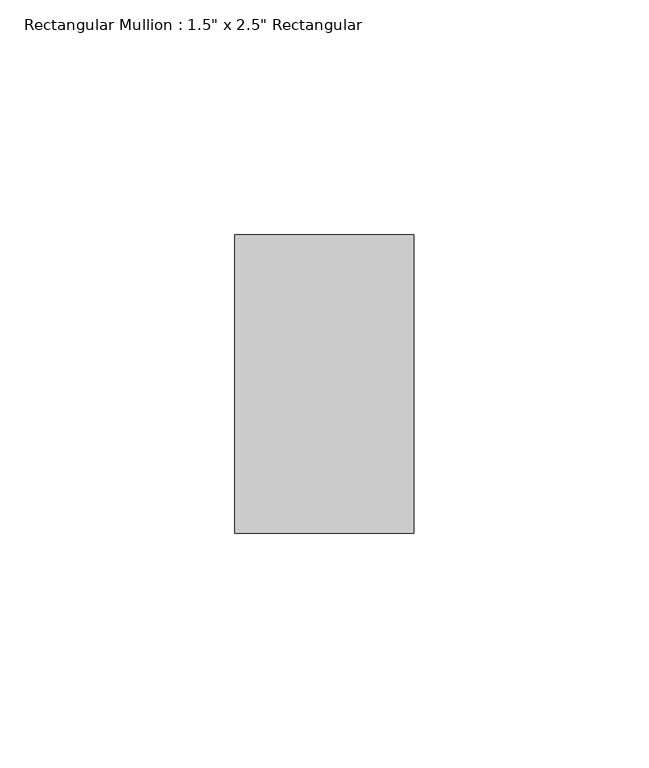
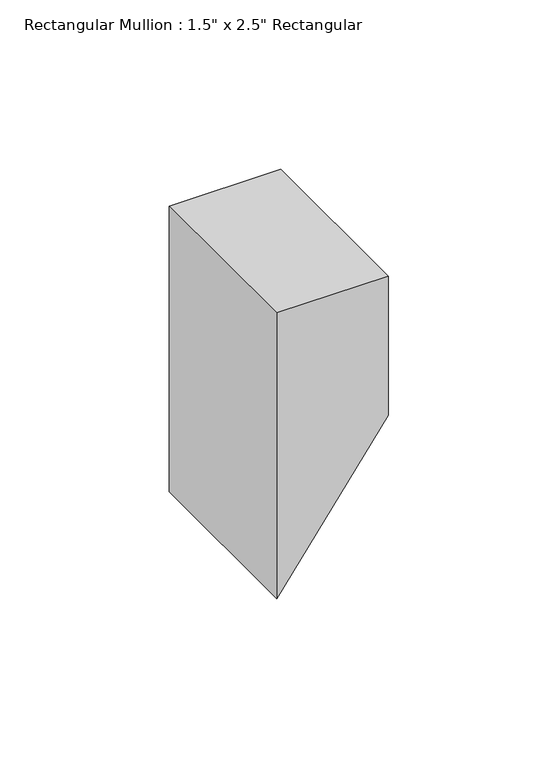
"""IFC4 building model written with IfcOpenShell, lengths in millimetres: member geometry."""

from ifc_helpers import new_model, si_unit, frame, origin, place, context, project, spatial, polyline, outline, extrude, source, transform, mapped, element, save


def member_0bac5ac1(model_context):
    return source(origin(), model_context, "Body", "SweptSolid", [
        extrude(outline(polyline([(0.0, 0.0), (0.0, -38.1), (-103.0620845, -38.1), (-50.2011582, 0.0), (0.0, 0.0)])), frame((0.0, -31.75, 0.0), z_axis=(0.0, 1.0, 0.0), x_axis=(0.0, 0.0, 1.0)), (0.0, 0.0, 1.0), 63.5),
    ])


if __name__ == "__main__":
    model = new_model("IFC4")
    model_context = context("Model", 3, world=origin())
    ifc_project = project(units=[si_unit("LENGTHUNIT", "METRE", prefix="MILLI")], contexts=[model_context])
    site = spatial("IfcSite", under=ifc_project)
    building = spatial("IfcBuilding", under=site)
    placement = place(None, origin())
    member_shape = member_0bac5ac1(model_context)
    element("IfcMember", 1, ObjectType="Rectangular Mullion : 1.5\" x 2.5\" Rectangular", at=placement, inside=building, context=model_context, shape_type="MappedRepresentation", body=[
        mapped(member_shape, transform((0.0, 0.0, 0.0), x_axis=(1.0, 0.0, 0.0), y_axis=(0.0, 1.0, 0.0), z_axis=(0.0, 0.0, 1.0))),
    ])
    save(model, "model.ifc")
